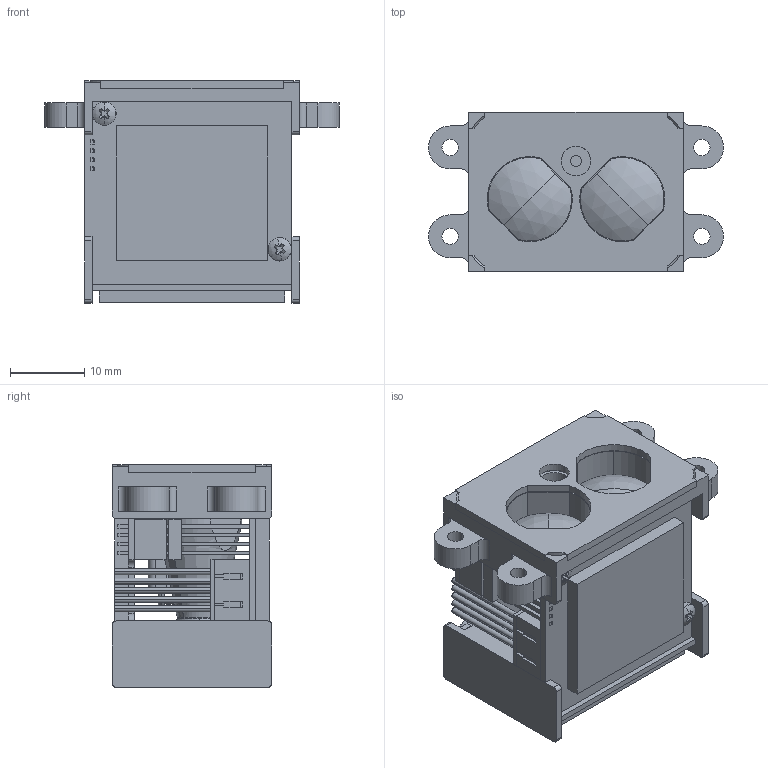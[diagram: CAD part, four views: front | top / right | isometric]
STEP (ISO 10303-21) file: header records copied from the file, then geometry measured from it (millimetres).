
FILE_DESCRIPTION (( 'STEP AP203' ), '1' );
FILE_NAME ('SW-SP50B-00 单点激光测距模组.STEP', '2025-05-28T06:24:05', ( '' ), ( '' ), 'SwSTEP 2.0', 'SolidWorks 2020', '' );
FILE_SCHEMA (( 'CONFIG_CONTROL_DESIGN' ));
Length unit declared in the file: millimetre
Products named in the file (1): SW-SP50B-00 单点激光测距模组
Bounding box: 39.8 x 21.5 x 30.05 mm (x, y, z)
Volume: 9948.6 mm3; surface area: 15048.1 mm2
Topology: 41 solids, 41 shells, 833 faces, 2057 edges, 1334 vertices
Faces by surface type: plane 540, cylinder 209, torus 40, cone 32, sphere 12
Entity records: 25089 total; most frequent: CARTESIAN_POINT 4847, DIRECTION 4239, ORIENTED_EDGE 4114, EDGE_CURVE 2057, AXIS2_PLACEMENT_3D 1482, VERTEX_POINT 1334, VECTOR 1275, LINE 1275
